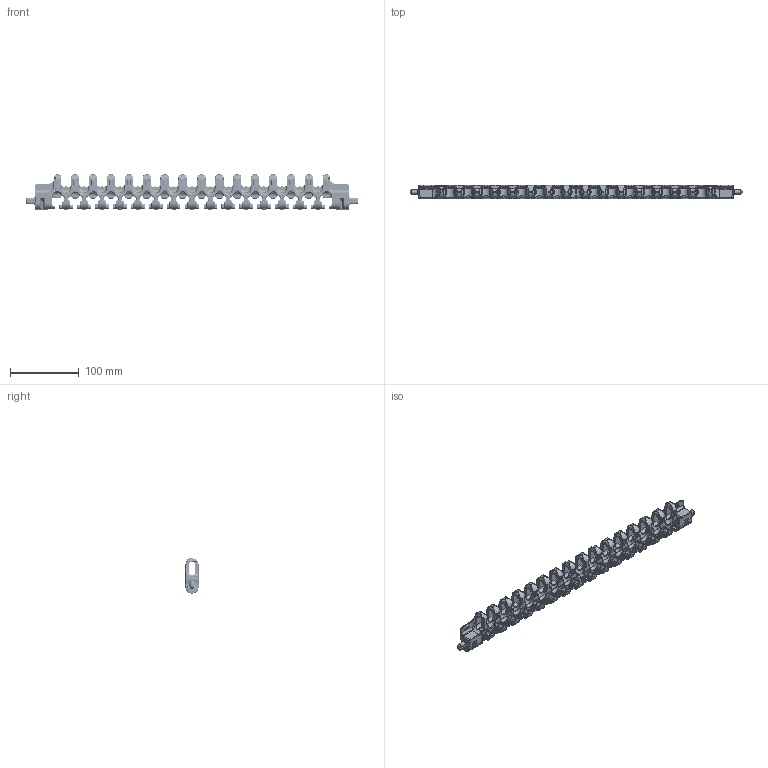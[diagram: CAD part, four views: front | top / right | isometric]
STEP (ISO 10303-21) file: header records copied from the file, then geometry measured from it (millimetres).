
FILE_DESCRIPTION((''),'2;1');
FILE_NAME('P1141','2011-02-17T',('mth'),(''),'PRO/ENGINEER BY PARAMETRIC TECHNOLOGY CORPORATION, 2010280','PRO/ENGINEER BY PARAMETRIC TECHNOLOGY CORPORATION, 2010280','');
FILE_SCHEMA(('AUTOMOTIVE_DESIGN { 1 0 10303 214 1 1 1 1 }'));
Products named in the file (1): P1141
Bounding box: 482.6 x 19.05 x 51 mm (x, y, z)
Volume: 161914.3 mm3; surface area: 73357.7 mm2
Topology: 1 solids, 1 shells, 5102 faces, 12511 edges, 7416 vertices
Faces by surface type: cylinder 1686, bspline 1318, plane 1178, torus 850, sphere 62, extrusion 8
Entity records: 270553 total; most frequent: CARTESIAN_POINT 157600, ORIENTED_EDGE 25022, DIRECTION 22393, EDGE_CURVE 12511, AXIS2_PLACEMENT_3D 8798, VERTEX_POINT 7416, EDGE_LOOP 5139, FACE_OUTER_BOUND 5102
